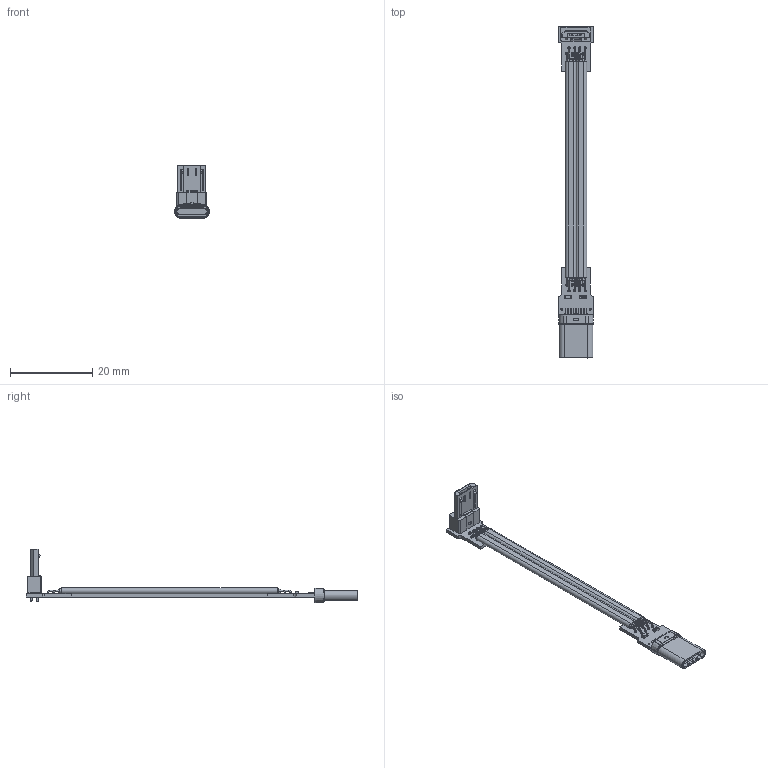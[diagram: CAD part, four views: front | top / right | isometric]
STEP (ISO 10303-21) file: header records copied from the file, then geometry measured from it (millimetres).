
FILE_DESCRIPTION(('Open CASCADE Model'),'2;1');
FILE_NAME('Open CASCADE Shape Model','2022-04-28T01:38:20',('Author'),( 'Open CASCADE'),'Open CASCADE STEP processor 6.8','Open CASCADE 6.8' ,'Unknown');
FILE_SCHEMA(('AUTOMOTIVE_DESIGN { 1 0 10303 214 1 1 1 1 }'));
Length unit declared in the file: millimetre
Products named in the file (57): PCB; Board; Open CASCADE STEP translator 6.8 2.1.1; Designator9; TYPE-C_14PIN_20211230; Open CASCADE STEP translator 6.8 2.3; C0603_060; Open CASCADE STEP translator 6.8 2.4; 0603_RES; Capsule; Encapsulation; TopCover; gDesignator22; usb_2.0_20211221; Free-Models; 8_pin_20211216_(2)
Assembly tree (57 placements, depth 4):
  PCB
    Board
      Open CASCADE STEP translator 6.8 2.1.1
    Designator9
      TYPE-C_14PIN_20211230
      TYPE-C_14PIN_20211230
      TYPE-C_14PIN_20211230
      TYPE-C_14PIN_20211230
      TYPE-C_14PIN_20211230
      TYPE-C_14PIN_20211230
      TYPE-C_14PIN_20211230
      TYPE-C_14PIN_20211230
      TYPE-C_14PIN_20211230
      TYPE-C_14PIN_20211230
      TYPE-C_14PIN_20211230
      TYPE-C_14PIN_20211230
      TYPE-C_14PIN_20211230
      TYPE-C_14PIN_20211230
      TYPE-C_14PIN_20211230
      TYPE-C_14PIN_20211230
      TYPE-C_14PIN_20211230
      TYPE-C_14PIN_20211230
      TYPE-C_14PIN_20211230
      TYPE-C_14PIN_20211230
      TYPE-C_14PIN_20211230
      TYPE-C_14PIN_20211230
      TYPE-C_14PIN_20211230
      TYPE-C_14PIN_20211230
      TYPE-C_14PIN_20211230
      TYPE-C_14PIN_20211230
      TYPE-C_14PIN_20211230
      TYPE-C_14PIN_20211230
      TYPE-C_14PIN_20211230
      TYPE-C_14PIN_20211230
      TYPE-C_14PIN_20211230
      TYPE-C_14PIN_20211230
      TYPE-C_14PIN_20211230
      TYPE-C_14PIN_20211230
      TYPE-C_14PIN_20211230
      TYPE-C_14PIN_20211230
      TYPE-C_14PIN_20211230
      TYPE-C_14PIN_20211230
      TYPE-C_14PIN_20211230
      TYPE-C_14PIN_20211230
    Open CASCADE STEP translator 6.8 2.3
      C0603_060
      C0603_060
      C0603_060
    Open CASCADE STEP translator 6.8 2.4
      0603_RES
        Capsule
        Encapsulation  x2
        TopCover
    gDesignator22
      usb_2.0_20211221
    Free-Models
      8_pin_20211216_(2)
Bounding box: 8.71 x 80.97 x 13.09 mm (x, y, z)
Volume: 715.2 mm3; surface area: 5219.4 mm2
Topology: 85 solids, 85 shells, 1031 faces, 2469 edges, 1615 vertices
Faces by surface type: plane 633, cylinder 284, bspline 68, torus 32, sphere 8, extrusion 6
Full cylindrical faces by diameter (mm): 0.45 x2, 0.55 x16, 0.7 x2
Entity records: 37321 total; most frequent: CARTESIAN_POINT 7441, ORIENTED_EDGE 4862, DIRECTION 4860, EDGE_CURVE 2431, VECTOR 1664, LINE 1658, AXIS2_PLACEMENT_3D 1598, VERTEX_POINT 1595
